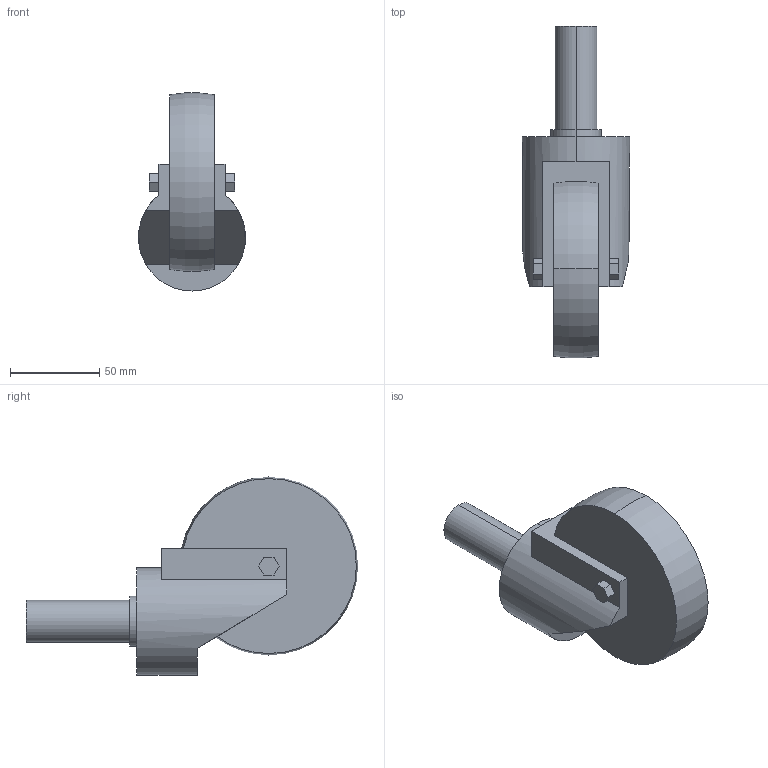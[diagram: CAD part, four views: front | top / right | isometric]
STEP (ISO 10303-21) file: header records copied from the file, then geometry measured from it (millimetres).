
FILE_DESCRIPTION (( 'STEP AP214' ), '1' );
FILE_NAME ('SUS-100N.step', '2024-02-15T04:31:59', ( 'catia' ), ( 'HP Inc.' ), 'SwSTEP 2.0', 'SolidWorks 2021', '' );
FILE_SCHEMA (( 'AUTOMOTIVE_DESIGN' ));
Length unit declared in the file: millimetre
Products named in the file (1): SUS-100N
Bounding box: 60 x 185.88 x 110.88 mm (x, y, z)
Volume: 366358.5 mm3; surface area: 40384.9 mm2
Topology: 1 solids, 1 shells, 36 faces, 90 edges, 60 vertices
Faces by surface type: plane 27, cylinder 6, torus 3
Entity records: 1122 total; most frequent: CARTESIAN_POINT 207, DIRECTION 184, ORIENTED_EDGE 180, EDGE_CURVE 90, LINE 62, VECTOR 62, AXIS2_PLACEMENT_3D 61, VERTEX_POINT 60
